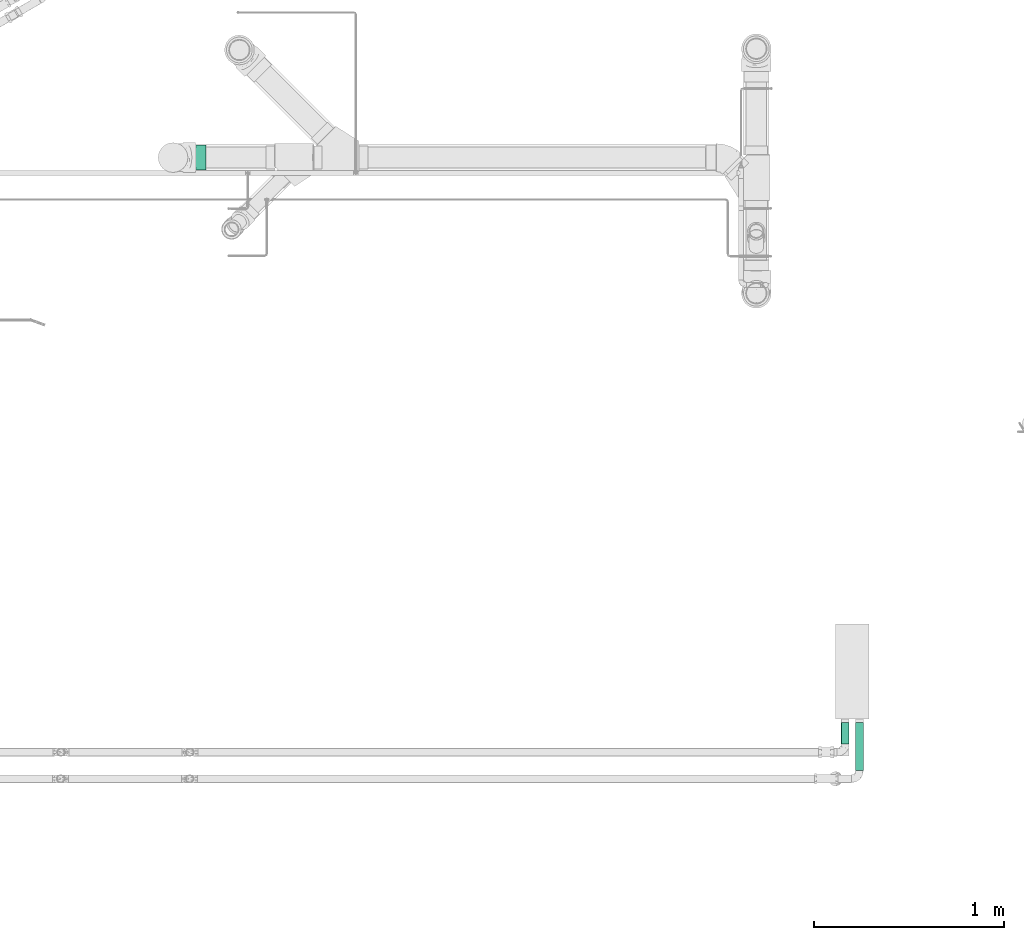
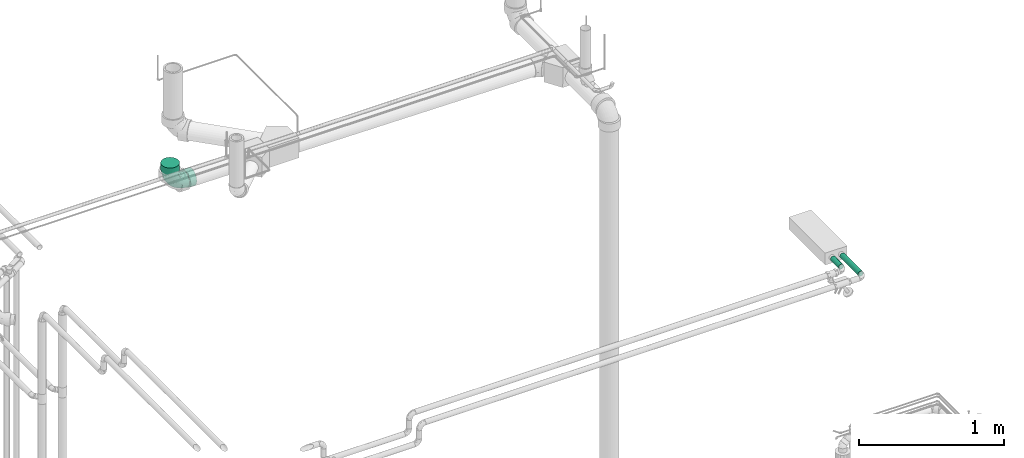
# One storey, part 38 of 108: 2 flow segments, 1 flow fitting.
"""IFC2X3 building model written with IfcOpenShell, lengths in millimetres."""

from ifc_helpers import new_model, entity, si_unit, converted_unit, derived_unit, direction, frame, origin_with_axes, origin_2d_with_axis, place, context, subcontext, project, spatial, hollow_circle, extrude, open_shell, surface_model, source, transform, mapped, type_object, element, save


model = new_model("IFC2X3")

# Units and contexts
model_context = context("Model", 3, precision=0.01, world=frame((0.0, 4.29681676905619e-09, 0.0)), true_north=direction((4.01073788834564e-13, 1.0)))
plan_context = context("Plan", 3, precision=0.01, world=frame((0.0, 4.29681676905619e-09, 0.0)), true_north=direction((4.01073788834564e-13, 1.0)))
body_context = subcontext(model_context, "Body", "Model", "MODEL_VIEW")
ifc_project = project(units=[converted_unit("PLANEANGLEUNIT", "DEGREE", entity("IfcPositiveLengthMeasure", 0.0174532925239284), si_unit("PLANEANGLEUNIT", "RADIAN"), dimensions=[0, 0, 0, 0, 0, 0, 0]), si_unit("AREAUNIT", "SQUARE_METRE"), si_unit("LENGTHUNIT", "METRE", prefix="MILLI"), si_unit("MASSUNIT", "GRAM", prefix="KILO"), si_unit("POWERUNIT", "WATT"), si_unit("PRESSUREUNIT", "PASCAL", prefix="KILO"), si_unit("FORCEUNIT", "NEWTON", prefix="KILO"), si_unit("ELECTRICVOLTAGEUNIT", "VOLT"), si_unit("ELECTRICCURRENTUNIT", "AMPERE"), si_unit("THERMODYNAMICTEMPERATUREUNIT", "DEGREE_CELSIUS"), si_unit("TIMEUNIT", "SECOND"), si_unit("VOLUMEUNIT", "CUBIC_METRE"), derived_unit("LINEARVELOCITYUNIT", [(si_unit("LENGTHUNIT", "METRE"), 1), (si_unit("TIMEUNIT", "SECOND"), -1)]), derived_unit("VOLUMETRICFLOWRATEUNIT", [(si_unit("VOLUMEUNIT", "CUBIC_METRE"), 1), (si_unit("TIMEUNIT", "SECOND"), -1)]), derived_unit("THERMALTRANSMITTANCEUNIT", [(si_unit("POWERUNIT", "WATT"), 1), (si_unit("THERMODYNAMICTEMPERATUREUNIT", "KELVIN"), -1), (si_unit("AREAUNIT", "SQUARE_METRE"), -1)]), derived_unit("SOUNDPRESSUREUNIT", [(si_unit("PRESSUREUNIT", "PASCAL"), 1)])], contexts=[model_context, plan_context])

# Site, building, storey
site_placement = place(None, frame((0.0, -4.29681676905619e-09, 0.0), z_axis=(0.0, 0.0, 1.0), x_axis=(1.0, 0.0, 0.0)))
site = spatial("IfcSite", under=ifc_project, at=site_placement, CompositionType="ELEMENT")
building_placement = place(site_placement, frame((0.0, 4.29681676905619e-09, 0.0), z_axis=(0.0, 0.0, 1.0), x_axis=(1.0, 0.0, 0.0)))
building = spatial("IfcBuilding", under=site, at=building_placement, Name="mc-building", CompositionType="ELEMENT")
storey_placement = place(building_placement, frame((0.0, 0.0, 210200.0), z_axis=(0.0, 0.0, 1.0), x_axis=(1.0, 0.0, 0.0)))
storey = spatial("IfcBuildingStorey", under=building, at=storey_placement, Name="Nivå F - 0,7 m", CompositionType="ELEMENT", Elevation=210200.0)

# Flow fitting
pipe_fitting_type = type_object("IfcPipeFittingType", Name="magi_sewer_bend_001", PredefinedType="BEND")
shared_shape_1 = source(origin_with_axes(), body_context, "Body", "SurfaceModel", [
    surface_model("IfcShellBasedSurfaceModel", [(-174.79605, -16.95265, -63.26814), (-174.79605, -32.75, -56.72466), (-174.79605, -46.3155, -46.3155), (-174.79605, -63.26814, -16.95265), (-174.79605, 56.72466, -32.75), (-174.79605, -56.72466, -32.75), (-174.79605, -65.5, 0.0), (-174.79605, 16.95265, -63.26814), (-174.79605, 0.0, -65.5), (-174.79605, 32.75, -56.72466), (-174.79605, 46.3155, -46.3155), (-174.79605, 63.26814, -16.95265), (-174.79605, -63.26814, 16.95265), (-174.79605, -56.72466, 32.75), (-174.79605, -46.3155, 46.3155), (-174.79605, 63.26814, 16.95265), (-174.79605, -16.95265, 63.26814), (-174.79605, 0.0, 65.5), (-174.79605, -32.75, 56.72466), (-174.79605, 46.3155, 46.3155), (-174.79605, 56.72466, 32.75), (-174.79605, 65.5, 0.0), (-174.79605, 16.95265, 63.26814), (-174.79605, 32.75, 56.72466), (-119.79605, -16.95265, 63.26814), (-119.79605, 16.95265, 63.26814), (-119.79605, 0.0, 65.5), (-119.79605, -46.3155, 46.3155), (-119.79605, -32.75, 56.72466), (-119.79605, -56.72466, 32.75), (-119.79605, -63.26814, 16.95265), (-119.79605, 46.3155, 46.3155), (-119.79605, 32.75, 56.72466), (-119.79605, 63.26814, 16.95265), (-119.79605, 56.72466, 32.75), (-119.79605, 63.26814, -16.95265), (-119.79605, 65.5, 0.0), (-119.79605, -63.26814, -16.95265), (-119.79605, 32.75, -56.72466), (-119.79605, -65.5, 0.0), (-119.79605, -16.95265, -63.26814), (-119.79605, -56.72466, -32.75), (-119.79605, -46.3155, -46.3155), (-119.79605, -32.75, -56.72466), (-119.79605, 0.0, -65.5), (-119.79605, 46.3155, -46.3155), (-119.79605, 56.72466, -32.75), (-119.79605, 16.95265, -63.26814), (-61.51711, 175.41996, 16.95265), (-54.97396, 175.35452, 32.75), (-44.56531, 175.25044, 46.3155), (-15.20393, 174.95684, 63.26814), (-61.51711, 175.41996, -16.95265), (18.69967, 174.61779, -63.26814), (-31.00049, 175.1148, 56.72466), (48.06105, 174.32417, 46.3155), (-44.56531, 175.25044, -46.3155), (-54.97396, 175.35452, -32.75), (-63.74885, 175.44227, 0.0), (-31.00049, 175.1148, -56.72466), (1.74787, 174.78731, -65.5), (-15.20393, 174.95684, -63.26814), (1.74787, 174.78731, 65.5), (18.69967, 174.61779, 63.26814), (34.49624, 174.45983, 56.72466), (58.4697, 174.22009, 32.75), (65.01285, 174.15467, 16.95265), (67.2446, 174.13234, 0.0), (48.06105, 174.32417, -46.3155), (34.49624, 174.45983, -56.72466), (58.4697, 174.22009, -32.75), (65.01285, 174.15467, -16.95265), (66.69463, 119.1351, 0.0), (64.46288, 119.15741, 16.95265), (57.91973, 119.22285, 32.75), (47.51108, 119.32693, 46.3155), (33.94626, 119.46258, 56.72466), (18.1497, 119.62054, 63.26814), (47.51108, 119.32693, -46.3155), (-15.7539, 119.95957, -63.26814), (18.1497, 119.62054, -63.26814), (57.91973, 119.22285, -32.75), (64.46288, 119.15741, -16.95265), (33.94626, 119.46258, -56.72466), (1.1979, 119.79006, -65.5), (-15.7539, 119.95957, 63.26814), (-45.11528, 120.25319, -46.3155), (1.1979, 119.79006, 65.5), (-62.06708, 120.42271, 16.95265), (-31.55046, 120.11754, 56.72466), (-45.11528, 120.25319, 46.3155), (-55.52393, 120.35728, 32.75), (-31.55046, 120.11754, -56.72466), (-62.06708, 120.42271, -16.95265), (-55.52393, 120.35728, -32.75), (-64.29882, 120.44503, 0.0), (-119.79605, 15.65855, -58.43851), (-119.79605, 0.0, -60.5), (-119.79605, 58.43851, -15.65855), (-119.79605, 30.25, -52.39454), (-119.79605, 52.39454, -30.25), (-119.79605, 42.77996, -42.77996), (-119.79605, -60.5, 0.0), (-119.79605, -30.25, -52.39454), (-119.79605, -42.77996, -42.77996), (-119.79605, -15.65855, -58.43851), (-119.79605, -58.43851, -15.65855), (-119.79605, -52.39454, -30.25), (-119.79605, -58.43851, 15.65855), (-119.79605, 58.43851, 15.65855), (-119.79605, 52.39454, 30.25), (-119.79605, 42.77996, 42.77996), (-119.79605, 30.25, 52.39454), (-119.79605, 15.65855, 58.43851), (-119.79605, -52.39454, 30.25), (-119.79605, -42.77996, 42.77996), (-119.79605, -30.25, 52.39454), (-119.79605, -15.65855, 58.43851), (-119.79605, 0.0, 60.5), (-119.79605, 60.5, 0.0), (1.1979, 119.79006, -60.5), (-14.45987, 119.94664, -58.43851), (-29.05059, 120.09254, -52.39454), (43.97572, 119.36228, -42.77996), (-51.19402, 120.31398, -30.25), (59.63349, 119.20571, 15.65855), (-41.57992, 120.21783, -42.77996), (61.69488, 119.18509, 0.0), (16.85567, 119.63349, -58.43851), (31.44639, 119.48757, -52.39454), (53.58982, 119.26614, -30.25), (59.63349, 119.20571, -15.65855), (-51.19402, 120.31398, 30.25), (-57.23769, 120.37442, -15.65855), (-59.29907, 120.39503, 0.0), (-57.23769, 120.37442, 15.65855), (-29.05059, 120.09254, 52.39454), (-41.57992, 120.21783, 42.77996), (-14.45987, 119.94664, 58.43851), (43.97572, 119.36228, 42.77996), (53.58982, 119.26614, 30.25), (31.44639, 119.48757, 52.39454), (1.1979, 119.79006, 60.5), (16.85567, 119.63349, 58.43851), (-87.7564, -47.01625, 33.99799), (-81.59863, -53.25036, 19.1542), (-73.11264, -54.39358, 0.0), (-89.88607, -56.58763, 0.0), (32.95566, 31.76664, 23.12546), (43.83182, 46.87375, 14.90539), (38.78221, 51.23378, 30.50477), (27.9062, 48.06796, 41.81132), (15.20787, 45.76588, 50.34414), (12.34215, 21.46453, 41.06128), (-87.67949, -22.85435, 54.43811), (-45.91566, -14.74948, 50.34414), (-59.39918, -0.63529, 58.66063), (35.61407, 77.62346, 45.0791), (-77.9757, -34.8361, 45.0791), (-43.87656, -41.69608, 15.28359), (-51.34156, -45.4394, 0.0), (-29.57048, -36.48523, 0.0), (-60.74993, 104.22435, 10.29838), (-69.35406, 85.05568, 13.11484), (-55.89617, 104.58988, 25.146), (-90.67997, 51.23595, 39.98418), (-82.35119, 68.70825, 21.14642), (-72.88608, 71.30295, 29.78529), (-74.46524, 51.83294, 46.83172), (-93.91693, 37.9627, 50.02655), (-64.7146, 46.18683, 53.57995), (-20.42175, 58.94997, 60.37774), (-44.08168, 44.5247, 59.00094), (-35.46902, 26.15717, 60.21062), (-91.4278, -8.01784, 59.47305), (-21.55232, 103.54419, 56.65744), (-7.40427, 89.47277, 60.34912), (-81.06567, 26.11389, 57.59764), (-89.39426, 8.29859, 60.34912), (-61.1963, 20.40125, 60.32653), (-100.22652, 59.69373, 21.24783), (-87.01841, 60.22132, 31.01352), (-5.00788, -10.48569, 28.16974), (-0.2567, 1.69835, 36.97518), (-20.02834, -14.60637, 37.65577), (-104.15051, 61.68873, 10.04729), (-84.97466, 70.52154, 9.94969), (-27.56806, -26.6884, 28.95666), (-47.70463, -27.46001, 41.48377), (-77.23051, 78.00668, 0.0), (-96.78351, 65.04758, 0.0), (-37.30343, 92.96145, 50.12884), (-103.3235, 22.58663, 56.65744), (-15.17468, 39.71716, 59.39969), (-29.2412, 11.04411, 56.57187), (-5.36768, 32.19014, 55.60132), (-10.25306, 10.3561, 49.56135), (55.12195, 72.56508, 0.0), (54.06364, 81.06208, 19.1542), (47.89142, 87.28187, 33.99799), (8.93168, 91.34306, 59.47305), (-51.61902, -38.26796, 30.50477), (57.48361, 89.31572, 0.0), (-48.94222, 80.35407, 45.98414), (-48.70503, 96.95831, 39.351), (-64.07654, 97.42911, 0.0), (-25.30197, 81.32275, 57.59764), (-43.81672, 66.27767, 53.95713), (23.72996, 87.44657, 54.43811), (-61.39969, 85.45322, 29.82879), (-63.05326, 67.11986, 42.80831), (-31.43024, 61.58285, 58.73283), (1.22922, 59.38986, 58.66063), (7.99357, -4.95199, 15.701), (-10.83497, -22.23259, 0.0), (7.90055, -7.97995, 0.0), (-14.80413, -23.43427, 18.62284), (36.77909, 29.20417, 0.0), (27.16405, 17.21797, 13.77462), (14.60561, 9.00285, 27.38157), (-62.13583, 35.67828, 57.75346), (25.55144, 29.73756, 33.12826), (45.95052, 50.88462, 0.0), (22.33982, 10.61211, 0.0), (-100.30809, 36.96592, -49.53455), (-47.73707, -27.58441, -41.37975), (-45.91566, -14.74948, -50.34414), (-20.02833, -14.60637, -37.65576), (-89.39426, 8.29859, -60.34912), (23.72996, 87.44657, -54.43811), (15.20787, 45.76587, -50.34414), (1.22922, 59.38986, -58.66063), (-103.3235, 22.58663, -56.65744), (-69.35406, 85.05568, -13.11484), (-99.61716, 61.7931, -15.61987), (-60.74993, 104.22435, -10.29838), (-84.97466, 70.52154, -9.94969), (-51.61902, -38.26796, -30.50477), (-27.56806, -26.6884, -28.95666), (-81.06567, 26.11389, -57.59764), (-77.10309, 43.83442, -50.82968), (-63.16489, 39.90276, -56.32433), (-77.9757, -34.8361, -45.0791), (-58.74282, 21.01019, -60.37774), (-44.08168, 44.5247, -59.00094), (-25.80119, 35.7288, -60.21062), (-93.06227, 50.53384, -39.72245), (-81.59863, -53.25036, -19.1542), (-48.37734, 98.38526, -39.19567), (-58.55811, 100.47446, -21.85722), (-66.48601, 63.72127, -42.80831), (-87.7564, -47.01625, -33.99799), (-96.83303, 57.44021, -28.40114), (-82.35119, 68.70825, -21.14642), (-87.67949, -22.85435, -54.4381), (-7.40427, 89.47277, -60.34912), (-47.3097, -43.36092, -14.90539), (14.60561, 9.00285, -27.38157), (12.34215, 21.46453, -41.06128), (25.55144, 29.73756, -33.12826), (-91.4278, -8.01784, -59.47305), (-76.81538, 65.43647, -32.93), (47.89142, 87.28187, -33.99799), (38.78221, 51.23378, -30.50477), (35.61407, 77.62346, -45.0791), (29.28304, 25.48407, -22.76574), (-60.47804, 86.07722, -30.64376), (-37.30342, 92.96145, -50.12884), (-21.55232, 103.54419, -56.65744), (54.06364, 81.06209, -19.1542), (-25.30197, 81.32274, -57.59764), (8.93168, 91.34306, -59.47305), (-39.56343, 15.57107, -59.39969), (-10.75116, 29.35017, -56.57187), (-32.13486, 5.68929, -55.60132), (42.13274, 43.45743, -15.28359), (24.92518, 13.72209, -12.72535), (6.90731, -5.56587, -16.9111), (-51.07595, 60.37645, -52.89772), (-19.7883, 61.39724, -60.32653), (-59.39918, -0.63529, -58.66063), (-37.21382, 63.0363, -57.06139), (-50.30861, 78.65249, -45.71732), (-10.25306, 10.3561, -49.56135), (27.9062, 48.06796, -41.81132), (-14.80414, -23.43428, -18.62283), (-5.00912, -10.4834, -28.17458), (-0.26016, 1.69895, -36.97891)], [open_shell([[[0, 1, 2]], [[0, 2, 3]], [[0, 3, 4]], [[3, 2, 5]], [[4, 3, 6]], [[0, 7, 8]], [[0, 9, 7]], [[10, 9, 0]], [[0, 4, 10]], [[6, 11, 4]], [[6, 12, 11]], [[12, 13, 14]], [[11, 14, 15]], [[16, 17, 14]], [[16, 14, 18]], [[15, 14, 17]], [[15, 19, 20]], [[21, 11, 15]], [[19, 22, 23]], [[22, 19, 15]], [[17, 22, 15]], [[11, 12, 14]], [[24, 25, 26]], [[27, 24, 28]], [[27, 29, 30]], [[24, 27, 25]], [[30, 25, 27]], [[25, 31, 32]], [[31, 25, 33]], [[31, 33, 34]], [[25, 30, 33]], [[33, 35, 36]], [[33, 30, 35]], [[37, 38, 39]], [[40, 37, 41]], [[42, 43, 40]], [[42, 40, 41]], [[44, 37, 40]], [[39, 45, 46]], [[46, 35, 39]], [[38, 44, 47]], [[38, 45, 39]], [[38, 37, 44]], [[39, 35, 30]], [[35, 11, 36]], [[46, 4, 35]], [[47, 44, 7]], [[45, 10, 46]], [[35, 4, 11]], [[11, 21, 36]], [[9, 38, 7]], [[9, 10, 45]], [[38, 47, 7]], [[10, 4, 46]], [[45, 38, 9]], [[44, 8, 7]], [[0, 40, 43]], [[42, 1, 43]], [[5, 41, 37]], [[42, 41, 2]], [[3, 37, 39]], [[40, 0, 8]], [[43, 1, 0]], [[42, 2, 1]], [[41, 5, 2]], [[3, 5, 37]], [[39, 6, 3]], [[40, 8, 44]], [[30, 12, 39]], [[29, 13, 30]], [[28, 18, 27]], [[27, 14, 29]], [[30, 13, 12]], [[12, 6, 39]], [[17, 16, 24]], [[16, 18, 28]], [[14, 27, 18]], [[14, 13, 29]], [[24, 16, 28]], [[24, 26, 17]], [[22, 25, 32]], [[31, 23, 32]], [[20, 34, 33]], [[31, 34, 19]], [[15, 33, 36]], [[25, 22, 17]], [[32, 23, 22]], [[31, 19, 23]], [[34, 20, 19]], [[15, 20, 33]], [[36, 21, 15]], [[25, 17, 26]], [[48, 49, 50]], [[48, 50, 51]], [[52, 48, 53]], [[51, 50, 54]], [[51, 55, 48]], [[52, 56, 57]], [[52, 58, 48]], [[59, 60, 61]], [[56, 52, 53]], [[59, 56, 53]], [[62, 63, 51]], [[63, 64, 55]], [[48, 55, 53]], [[65, 66, 67]], [[65, 67, 55]], [[53, 55, 67]], [[53, 68, 69]], [[60, 59, 53]], [[67, 70, 68]], [[68, 53, 67]], [[70, 67, 71]], [[51, 63, 55]], [[72, 73, 74]], [[72, 74, 75]], [[75, 76, 77]], [[72, 75, 78]], [[79, 80, 75]], [[72, 81, 82]], [[72, 78, 81]], [[78, 80, 83]], [[78, 75, 80]], [[79, 84, 80]], [[79, 75, 77]], [[85, 86, 87]], [[88, 85, 89]], [[90, 91, 88]], [[90, 88, 89]], [[86, 85, 88]], [[79, 86, 92]], [[79, 87, 86]], [[86, 93, 94]], [[86, 88, 93]], [[95, 93, 88]], [[87, 79, 77]], [[79, 61, 84]], [[92, 59, 79]], [[93, 95, 52]], [[86, 56, 92]], [[79, 59, 61]], [[61, 60, 84]], [[57, 94, 52]], [[57, 56, 86]], [[94, 93, 52]], [[56, 59, 92]], [[86, 94, 57]], [[95, 58, 52]], [[48, 88, 91]], [[90, 49, 91]], [[54, 89, 85]], [[90, 89, 50]], [[51, 85, 87]], [[88, 48, 58]], [[91, 49, 48]], [[90, 50, 49]], [[89, 54, 50]], [[51, 54, 85]], [[87, 62, 51]], [[88, 58, 95]], [[77, 63, 87]], [[76, 64, 77]], [[74, 65, 75]], [[75, 55, 76]], [[77, 64, 63]], [[63, 62, 87]], [[67, 66, 73]], [[66, 65, 74]], [[55, 75, 65]], [[55, 64, 76]], [[73, 66, 74]], [[73, 72, 67]], [[71, 82, 81]], [[78, 70, 81]], [[69, 83, 80]], [[78, 83, 68]], [[53, 80, 84]], [[82, 71, 67]], [[81, 70, 71]], [[78, 68, 70]], [[83, 69, 68]], [[53, 69, 80]], [[84, 60, 53]], [[82, 67, 72]], [[96, 97, 98]], [[99, 96, 98]], [[98, 100, 101]], [[99, 98, 101]], [[102, 98, 97]], [[103, 104, 105]], [[104, 97, 105]], [[106, 102, 107]], [[104, 107, 102]], [[104, 102, 97]], [[102, 108, 98]], [[109, 98, 108]], [[110, 109, 111]], [[112, 109, 108]], [[111, 109, 112]], [[113, 112, 108]], [[114, 115, 108]], [[116, 108, 115]], [[117, 118, 116]], [[108, 116, 118]], [[118, 113, 108]], [[119, 98, 109]], [[120, 121, 122]], [[123, 120, 122]], [[122, 124, 125]], [[124, 122, 126]], [[125, 127, 122]], [[128, 123, 129]], [[128, 120, 123]], [[130, 127, 131]], [[127, 130, 123]], [[122, 127, 123]], [[132, 124, 133]], [[134, 135, 132]], [[132, 136, 124]], [[136, 125, 124]], [[136, 132, 137]], [[125, 136, 138]], [[125, 139, 140]], [[139, 125, 141]], [[141, 142, 143]], [[142, 141, 125]], [[125, 138, 142]], [[133, 134, 132]], [[144, 114, 145]], [[146, 145, 147]], [[148, 149, 150]], [[145, 114, 108]], [[108, 147, 145]], [[151, 152, 153]], [[115, 114, 144]], [[154, 155, 156]], [[157, 139, 141]], [[158, 116, 115]], [[158, 154, 116]], [[159, 160, 161]], [[162, 163, 164]], [[111, 165, 110]], [[163, 166, 167]], [[168, 169, 170]], [[171, 172, 173]], [[165, 111, 169]], [[117, 174, 118]], [[138, 175, 176]], [[177, 178, 179]], [[180, 181, 166]], [[182, 183, 184]], [[119, 109, 185]], [[166, 186, 185]], [[187, 184, 188]], [[189, 190, 186]], [[136, 137, 191]], [[113, 192, 112]], [[193, 194, 195]], [[196, 155, 184]], [[166, 185, 180]], [[149, 197, 198]], [[111, 112, 169]], [[150, 198, 199]], [[191, 175, 136]], [[149, 198, 150]], [[143, 142, 200]], [[144, 201, 158]], [[198, 125, 140]], [[135, 164, 132]], [[199, 198, 140]], [[145, 146, 160]], [[198, 202, 125]], [[140, 139, 199]], [[203, 191, 204]], [[177, 170, 169]], [[186, 163, 189]], [[178, 177, 192]], [[205, 162, 134]], [[113, 118, 178]], [[189, 163, 205]], [[181, 167, 166]], [[191, 206, 175]], [[207, 206, 191]], [[132, 164, 204]], [[208, 141, 143]], [[116, 154, 117]], [[157, 208, 152]], [[136, 175, 138]], [[142, 138, 176]], [[155, 158, 188]], [[162, 205, 163]], [[157, 141, 208]], [[209, 167, 210]], [[206, 171, 176]], [[204, 137, 132]], [[210, 170, 207]], [[171, 206, 211]], [[200, 176, 212]], [[174, 178, 118]], [[156, 173, 179]], [[155, 154, 158]], [[174, 154, 156]], [[155, 188, 184]], [[155, 196, 194]], [[200, 208, 143]], [[212, 195, 152]], [[212, 152, 208]], [[152, 196, 153]], [[201, 144, 145]], [[158, 115, 144]], [[139, 157, 199]], [[150, 199, 157]], [[213, 214, 215]], [[182, 184, 187]], [[216, 159, 161]], [[217, 149, 218]], [[219, 213, 218]], [[152, 151, 157]], [[192, 169, 112]], [[177, 220, 170]], [[211, 207, 172]], [[165, 168, 210]], [[185, 186, 190]], [[163, 186, 166]], [[119, 185, 190]], [[185, 109, 180]], [[109, 110, 180]], [[181, 110, 165]], [[110, 181, 180]], [[210, 181, 165]], [[172, 220, 179]], [[212, 176, 171]], [[194, 173, 156]], [[171, 173, 193]], [[210, 204, 209]], [[191, 137, 204]], [[176, 200, 142]], [[208, 200, 212]], [[154, 174, 117]], [[178, 174, 156]], [[207, 191, 203]], [[172, 207, 170]], [[156, 179, 178]], [[172, 179, 173]], [[210, 167, 181]], [[163, 167, 209]], [[183, 196, 184]], [[221, 153, 219]], [[221, 151, 153]], [[150, 157, 151]], [[155, 194, 156]], [[195, 194, 196]], [[152, 195, 196]], [[193, 195, 212]], [[171, 193, 212]], [[194, 193, 173]], [[164, 163, 209]], [[134, 162, 135]], [[108, 102, 147]], [[202, 198, 197]], [[202, 127, 125]], [[176, 175, 206]], [[178, 192, 113]], [[169, 192, 177]], [[162, 164, 135]], [[204, 164, 209]], [[216, 187, 159]], [[160, 159, 145]], [[145, 159, 201]], [[150, 221, 148]], [[149, 222, 197]], [[219, 182, 213]], [[213, 223, 218]], [[213, 216, 214]], [[158, 201, 188]], [[187, 188, 201]], [[159, 187, 201]], [[182, 187, 216]], [[213, 182, 216]], [[219, 153, 183]], [[219, 183, 182]], [[196, 183, 153]], [[216, 161, 214]], [[179, 220, 177]], [[172, 170, 220]], [[169, 168, 165]], [[170, 210, 168]], [[207, 211, 206]], [[172, 171, 211]], [[204, 210, 203]], [[207, 203, 210]], [[148, 219, 218]], [[151, 221, 150]], [[219, 148, 221]], [[149, 148, 218]], [[149, 217, 222]], [[223, 213, 215]], [[223, 217, 218]], [[99, 101, 224]], [[225, 226, 227]], [[97, 96, 228]], [[229, 230, 231]], [[96, 99, 232]], [[189, 205, 233]], [[190, 234, 119]], [[205, 235, 233]], [[236, 234, 190]], [[237, 225, 238]], [[239, 240, 241]], [[242, 225, 237]], [[243, 244, 245]], [[100, 246, 101]], [[107, 247, 106]], [[124, 248, 249]], [[247, 147, 106]], [[240, 246, 250]], [[247, 107, 251]], [[252, 234, 253]], [[242, 103, 254]], [[239, 243, 228]], [[121, 120, 255]], [[131, 127, 202]], [[256, 146, 247]], [[257, 258, 259]], [[260, 105, 97]], [[237, 247, 251]], [[242, 254, 226]], [[246, 252, 261]], [[189, 236, 190]], [[262, 263, 264]], [[253, 236, 233]], [[246, 240, 224]], [[133, 235, 134]], [[257, 259, 265]], [[254, 103, 105]], [[253, 233, 266]], [[267, 122, 268]], [[262, 130, 269]], [[122, 121, 268]], [[255, 270, 268]], [[242, 104, 103]], [[126, 122, 267]], [[248, 266, 249]], [[120, 128, 271]], [[123, 264, 129]], [[96, 232, 228]], [[272, 273, 274]], [[222, 217, 275]], [[276, 277, 257]], [[229, 129, 264]], [[269, 130, 131]], [[241, 278, 244]], [[269, 202, 197]], [[107, 104, 251]], [[248, 124, 126]], [[202, 269, 131]], [[129, 229, 128]], [[130, 262, 123]], [[270, 255, 279]], [[234, 252, 98]], [[256, 247, 237]], [[250, 261, 266]], [[269, 197, 222]], [[233, 235, 249]], [[239, 241, 243]], [[260, 228, 280]], [[271, 255, 120]], [[231, 245, 279]], [[278, 281, 244]], [[282, 266, 248]], [[260, 254, 105]], [[280, 274, 226]], [[280, 226, 254]], [[226, 283, 227]], [[230, 229, 264]], [[271, 229, 231]], [[230, 284, 258]], [[230, 283, 273]], [[104, 242, 251]], [[237, 251, 242]], [[263, 262, 269]], [[264, 123, 262]], [[283, 230, 258]], [[277, 214, 285]], [[238, 286, 285]], [[256, 285, 161]], [[287, 283, 258]], [[275, 217, 276]], [[240, 250, 278]], [[239, 232, 224]], [[282, 278, 250]], [[281, 267, 270]], [[233, 236, 189]], [[234, 236, 253]], [[261, 252, 253]], [[234, 98, 119]], [[246, 100, 252]], [[98, 252, 100]], [[244, 281, 279]], [[280, 228, 243]], [[273, 245, 231]], [[243, 245, 272]], [[228, 260, 97]], [[254, 260, 280]], [[229, 271, 128]], [[255, 271, 231]], [[266, 261, 253]], [[246, 261, 250]], [[126, 267, 248]], [[282, 248, 267]], [[231, 279, 255]], [[244, 279, 245]], [[230, 264, 284]], [[257, 286, 287]], [[264, 263, 284]], [[259, 284, 263]], [[246, 224, 101]], [[239, 224, 240]], [[230, 273, 231]], [[274, 273, 283]], [[226, 274, 283]], [[272, 274, 280]], [[243, 272, 280]], [[273, 272, 245]], [[278, 282, 267]], [[266, 282, 250]], [[134, 235, 205]], [[249, 235, 133]], [[124, 249, 133]], [[233, 249, 266]], [[147, 247, 146]], [[147, 102, 106]], [[224, 232, 99]], [[228, 232, 239]], [[255, 268, 121]], [[267, 268, 270]], [[256, 237, 238]], [[256, 160, 146]], [[265, 276, 257]], [[222, 275, 269]], [[269, 275, 263]], [[276, 217, 223]], [[278, 241, 240]], [[215, 277, 276]], [[286, 277, 285]], [[226, 225, 242]], [[238, 225, 227]], [[286, 238, 227]], [[256, 238, 285]], [[287, 286, 227]], [[286, 257, 277]], [[283, 287, 227]], [[257, 287, 258]], [[214, 277, 215]], [[214, 161, 285]], [[243, 241, 244]], [[267, 281, 278]], [[279, 281, 270]], [[284, 259, 258]], [[265, 263, 275]], [[263, 265, 259]], [[275, 276, 265]], [[256, 161, 160]], [[215, 276, 223]]])]),
])
flow_fitting_placement = place(storey_placement, frame((325828.8545, 463531.64264, 3102.65448999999), z_axis=(0.0, 1.0, 0.0), x_axis=(-0.999949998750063, 0.0, 0.0099999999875)))
element("IfcFlowFitting", 1, at=flow_fitting_placement, inside=storey, type_object=pipe_fitting_type, Name="magi_sewer_bend_001", context=body_context, shape_type="MappedRepresentation", body=[
    mapped(shared_shape_1, transform((0.0, 0.0, 0.0), scale=1.0)),
])

# Flow segments
pipe_segment_type = type_object("IfcPipeSegmentType", Name="Stålrør normaltykke", PredefinedType="RIGIDSEGMENT")
shared_shape_2 = source(origin_with_axes(), body_context, "Body", "SweptSolid", [
    extrude(hollow_circle(Radius=21.2, WallThickness=2.0, at=origin_2d_with_axis()), frame((0.0, 0.0, 0.0), z_axis=(1.0, 0.0, 0.0), x_axis=(0.0, 1.0, 0.0)), (0.0, 0.0, 1.0), 113.4),
])
flow_segment_1_placement = place(storey_placement, frame((329375.2875, 460436.52277, 3038.28479999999), z_axis=(0.0, 0.0, 1.0), x_axis=(0.0, 1.0, 0.0)))
element("IfcFlowSegment", 2, at=flow_segment_1_placement, inside=storey, type_object=pipe_segment_type, Name="Stålrør normaltykke", context=body_context, shape_type="MappedRepresentation", body=[
    mapped(shared_shape_2, transform((0.0, 0.0, 0.0), scale=1.0)),
])
shared_shape_3 = source(origin_with_axes(), body_context, "Body", "SweptSolid", [
    extrude(hollow_circle(Radius=21.2, WallThickness=2.0, at=origin_2d_with_axis()), frame((0.0, 0.0, 0.0), z_axis=(1.0, 0.0, 0.0), x_axis=(0.0, 1.0, 0.0)), (0.0, 0.0, 1.0), 253.4),
])
flow_segment_2_placement = place(storey_placement, frame((329450.2875, 460296.52277, 3038.28479999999), z_axis=(0.0, 0.0, 1.0), x_axis=(0.0, 1.0, 0.0)))
element("IfcFlowSegment", 3, at=flow_segment_2_placement, inside=storey, type_object=pipe_segment_type, Name="Stålrør normaltykke", context=body_context, shape_type="MappedRepresentation", body=[
    mapped(shared_shape_3, transform((0.0, 0.0, 0.0), scale=1.0)),
])

save(model, "model.ifc")
